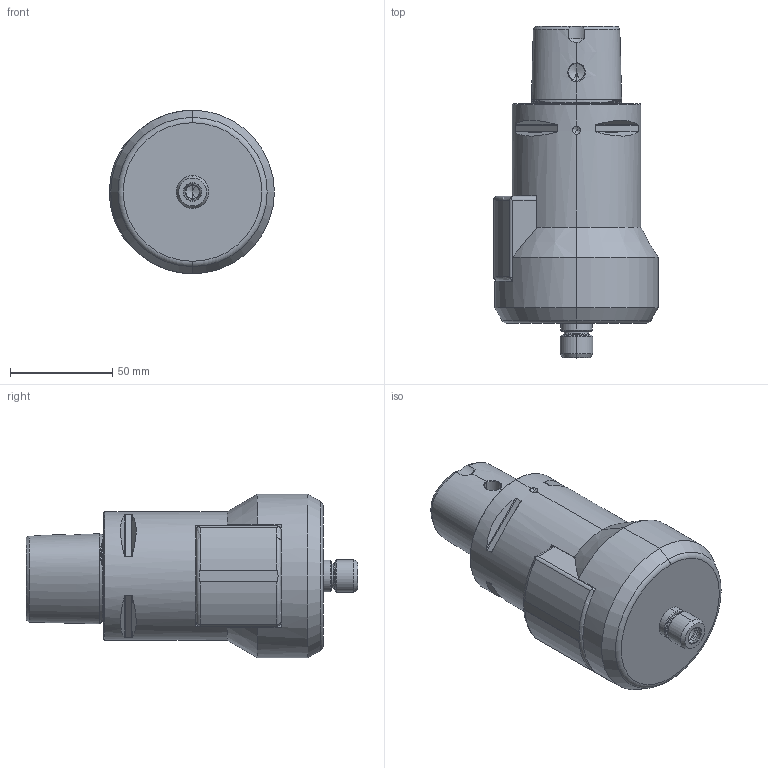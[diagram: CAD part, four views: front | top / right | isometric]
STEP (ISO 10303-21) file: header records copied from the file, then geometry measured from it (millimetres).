
FILE_DESCRIPTION (( 'STEP AP214' ), '1' );
FILE_NAME ('TJS-HPC-C6-Detail.STEP', '2018-05-03T10:28:22', ( '' ), ( '' ), 'SwSTEP 2.0', 'SolidWorks 2015', '' );
FILE_SCHEMA (( 'AUTOMOTIVE_DESIGN' ));
Length unit declared in the file: millimetre
Products named in the file (1): TJS-HPC-C6-Detail
Bounding box: 80.55 x 162.3 x 80 mm (x, y, z)
Volume: 444720.3 mm3; surface area: 46590.9 mm2
Topology: 1 solids, 1 shells, 170 faces, 405 edges, 238 vertices
Faces by surface type: cone 52, cylinder 50, plane 34, torus 18, bspline 14, sphere 2
Entity records: 10370 total; most frequent: CARTESIAN_POINT 6606, ORIENTED_EDGE 788, DIRECTION 762, EDGE_CURVE 394, AXIS2_PLACEMENT_3D 310, VERTEX_POINT 238, EDGE_LOOP 184, ADVANCED_FACE 170
